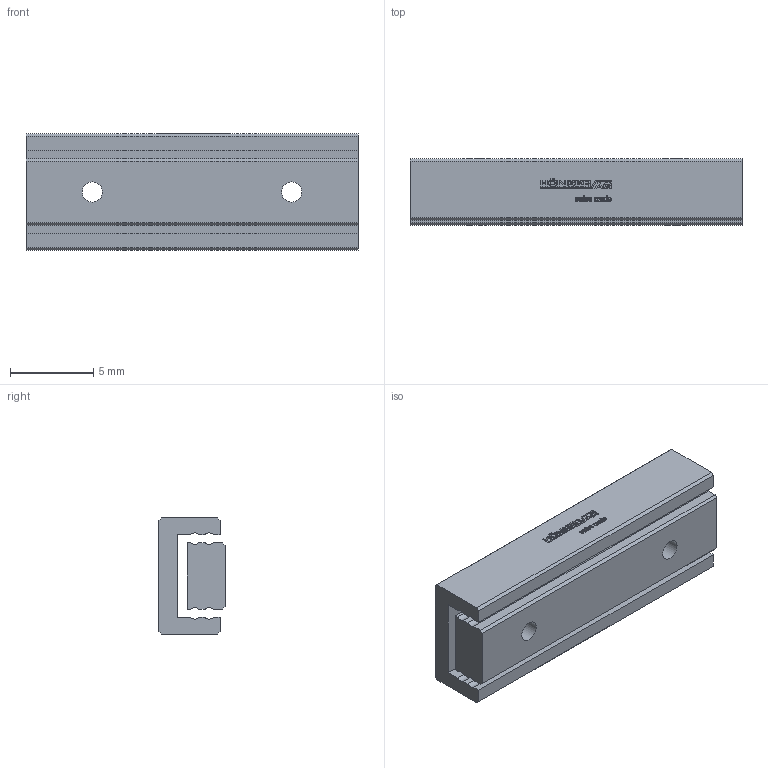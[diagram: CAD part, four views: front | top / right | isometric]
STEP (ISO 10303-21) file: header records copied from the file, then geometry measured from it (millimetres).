
FILE_DESCRIPTION(/* description */ ('STEP AP214'),/* implementation_level */ '2;1');
FILE_NAME(/* name */ 'MSK 4-20.16(0)',/* time_stamp */ '2025-04-16T16:44:15+02:00',/* author */ ('License CC BY-ND 4.0'),/* organization */ ('CADENAS'),/* preprocessor_version */ 'ST-DEVELOPER v19.3',/* originating_system */ 'PARTsolutions',/* authorisation */ ' ');
FILE_SCHEMA (('AUTOMOTIVE_DESIGN {1 0 10303 214 3 1 1}'));
Length unit declared in the file: millimetre
Products named in the file (3): MSK 4-20.16(0); MSK 4-20.16_1; MSK 4-20.16_2
Assembly tree (2 placements, depth 2):
  MSK 4-20.16(0)
    MSK 4-20.16_1
    MSK 4-20.16_2
Bounding box: 20 x 4 x 7 mm (x, y, z)
Volume: 426.8 mm3; surface area: 849.8 mm2
Topology: 2 solids, 2 shells, 509 faces, 1432 edges, 954 vertices
Faces by surface type: cylinder 304, plane 203, cone 2
Full cylindrical faces by diameter (mm): 1.221 x4
Entity records: 16741 total; most frequent: DIRECTION 3060, CARTESIAN_POINT 2892, ORIENTED_EDGE 2852, EDGE_CURVE 1426, AXIS2_PLACEMENT_3D 1122, VERTEX_POINT 954, LINE 816, VECTOR 816
